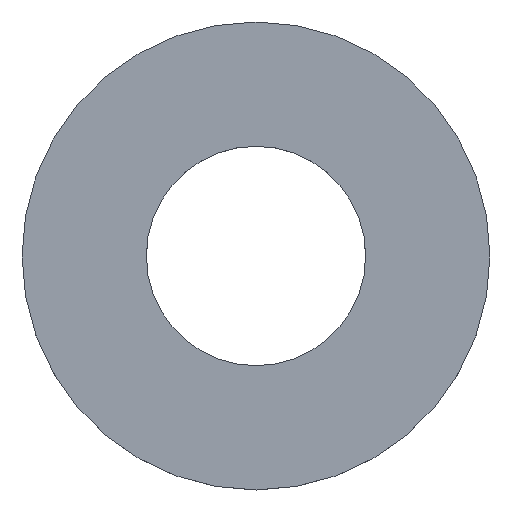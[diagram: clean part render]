
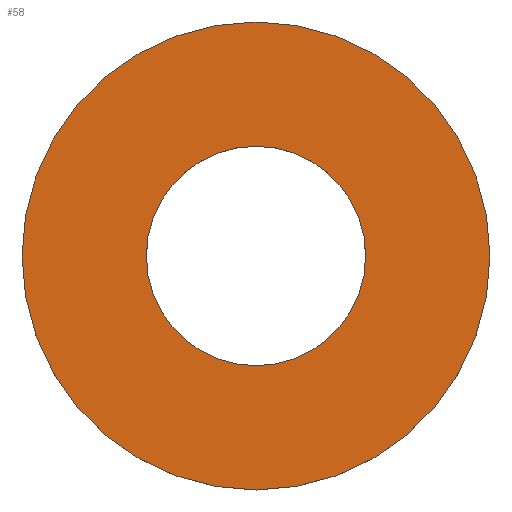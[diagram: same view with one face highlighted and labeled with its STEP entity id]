
A CAD part, top view. The second image highlights one B-rep face of the part: STEP entity #58.
In plain terms, the highlighted planar face has unit normal (0, 0, 1).
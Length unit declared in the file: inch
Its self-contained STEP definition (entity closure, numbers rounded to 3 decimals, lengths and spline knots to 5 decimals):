
#16=PLANE('',#68);
#20=FACE_BOUND('',#32,.T.);
#24=FACE_OUTER_BOUND('',#31,.T.);
#31=EDGE_LOOP('',(#51));
#32=EDGE_LOOP('',(#52));
#33=CIRCLE('',#62,0.9375);
#35=CIRCLE('',#65,2.);
#37=VERTEX_POINT('',#89);
#39=VERTEX_POINT('',#94);
#41=EDGE_CURVE('',#37,#37,#33,.T.);
#43=EDGE_CURVE('',#39,#39,#35,.T.);
#51=ORIENTED_EDGE('',*,*,#43,.T.);
#52=ORIENTED_EDGE('',*,*,#41,.T.);
#58=ADVANCED_FACE('',(#24,#20),#16,.T.);
#62=AXIS2_PLACEMENT_3D('',#90,#73,#74);
#65=AXIS2_PLACEMENT_3D('',#95,#79,#80);
#68=AXIS2_PLACEMENT_3D('',#99,#85,#86);
#73=DIRECTION('center_axis',(0.,0.,-1.));
#74=DIRECTION('ref_axis',(-1.,0.,0.));
#79=DIRECTION('center_axis',(0.,0.,1.));
#80=DIRECTION('ref_axis',(-1.,0.,0.));
#85=DIRECTION('center_axis',(0.,0.,1.));
#86=DIRECTION('ref_axis',(1.,0.,0.));
#89=CARTESIAN_POINT('',(0.9375,0.,0.25));
#90=CARTESIAN_POINT('Origin',(0.,0.,0.25));
#94=CARTESIAN_POINT('',(2.,0.,0.25));
#95=CARTESIAN_POINT('Origin',(0.,0.,0.25));
#99=CARTESIAN_POINT('Origin',(0.,0.,
0.25));
